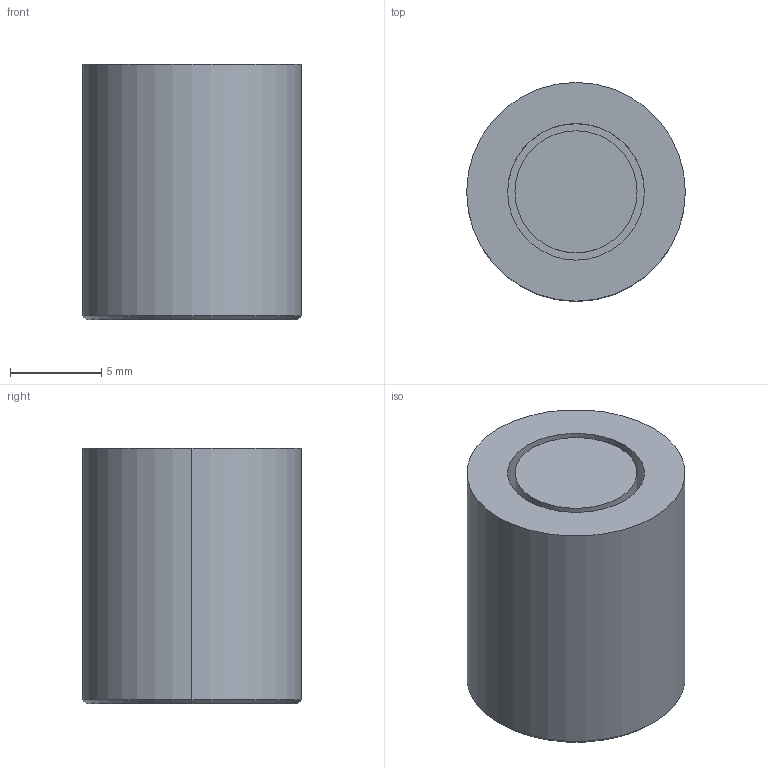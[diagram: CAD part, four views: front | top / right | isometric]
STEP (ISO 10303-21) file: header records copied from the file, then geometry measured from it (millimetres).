
FILE_DESCRIPTION (( 'STEP AP214' ), '1' );
FILE_NAME ('BruyRubio_Blank-12S.STEP', '2019-12-19T17:22:22', ( '' ), ( '' ), 'SwSTEP 2.0', 'SolidWorks 2017', '' );
FILE_SCHEMA (( 'AUTOMOTIVE_DESIGN' ));
Length unit declared in the file: millimetre
Products named in the file (1): BruyRubio_Blank-12S
Bounding box: 12 x 12 x 14 mm (x, y, z)
Volume: 1244.9 mm3; surface area: 1254.4 mm2
Topology: 2 solids, 2 shells, 18 faces, 34 edges, 22 vertices
Faces by surface type: cylinder 10, plane 6, cone 2
Entity records: 709 total; most frequent: DIRECTION 94, CARTESIAN_POINT 75, ORIENTED_EDGE 68, AXIS2_PLACEMENT_3D 41, EDGE_CURVE 34, UNCERTAINTY_MEASURE_WITH_UNIT 22, EDGE_LOOP 22, VERTEX_POINT 22
